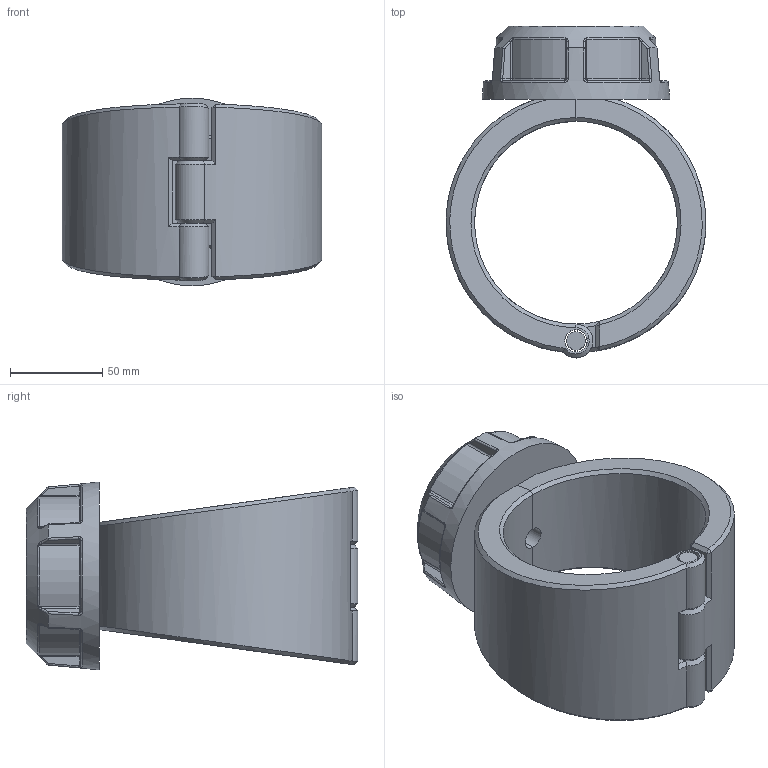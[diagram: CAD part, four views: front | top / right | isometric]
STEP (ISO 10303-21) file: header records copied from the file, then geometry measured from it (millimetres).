
FILE_DESCRIPTION(/* description */ ('Plassadle Threaded 110x3/4'''''),/* implementation_level */ '2;1');
FILE_NAME(/* name */ 'C:\Users\comp2\Dropbox\99-16-3568-Processing\Mechanical Fittings\16300\stp\163000110007.stp',/* time_stamp */ '2022-02-03T11:47:44+00:00',/* author */ ('comp2'),/* organization */ (''),/* preprocessor_version */ 'ST-DEVELOPER v17.2',/* originating_system */ 'Autodesk Inventor 2019',/* authorisation */ '');
FILE_SCHEMA (('AUTOMOTIVE_DESIGN { 1 0 10303 214 3 1 1 }'));
Length unit declared in the file: millimetre
Products named in the file (1): 163000110007
Bounding box: 141 x 180 x 102 mm (x, y, z)
Volume: 693653.7 mm3; surface area: 110535.5 mm2
Topology: 4 solids, 4 shells, 203 faces, 486 edges, 293 vertices
Faces by surface type: bspline 58, plane 53, cylinder 47, torus 18, cone 15, sphere 12
Full cylindrical faces by diameter (mm): 10.12 x1, 12.059 x1, 12.12 x3, 20.499 x1, 24.117 x1, 36.175 x1
Entity records: 8244 total; most frequent: CARTESIAN_POINT 3897, ORIENTED_EDGE 972, DIRECTION 781, EDGE_CURVE 486, AXIS2_PLACEMENT_3D 330, VERTEX_POINT 293, EDGE_LOOP 213, FACE_OUTER_BOUND 203
